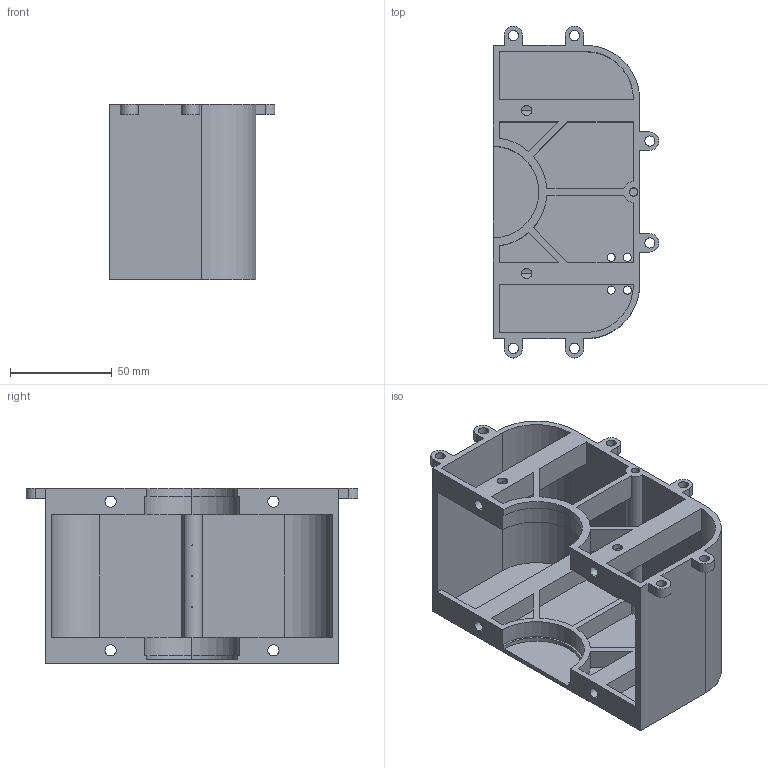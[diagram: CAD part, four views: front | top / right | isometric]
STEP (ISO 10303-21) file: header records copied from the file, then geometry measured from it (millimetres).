
FILE_DESCRIPTION(('STEP AP214'),'1');
FILE_NAME('C:/Users/mashimo/Documents/次世代エンジン/ボア６ｃｍ/TurboCAD/3D/tmp0.STEP','2025-07-11T09:08:16',(' '),(' '),'Spatial InterOp 3D',' ',' ');
FILE_SCHEMA(('automotive_design'));
Length unit declared in the file: millimetre
Products named in the file (1): 1
Bounding box: 81.5 x 163 x 86 mm (x, y, z)
Volume: 131404.8 mm3; surface area: 96059.2 mm2
Topology: 1 solids, 1 shells, 158 faces, 472 edges, 312 vertices
Faces by surface type: cylinder 82, plane 76
Entity records: 7154 total; most frequent: CARTESIAN_POINT 1421, ORIENTED_EDGE 944, DIRECTION 908, EDGE_CURVE 472, VERTEX_POINT 312, AXIS2_PLACEMENT_3D 307, LINE 294, VECTOR 294
